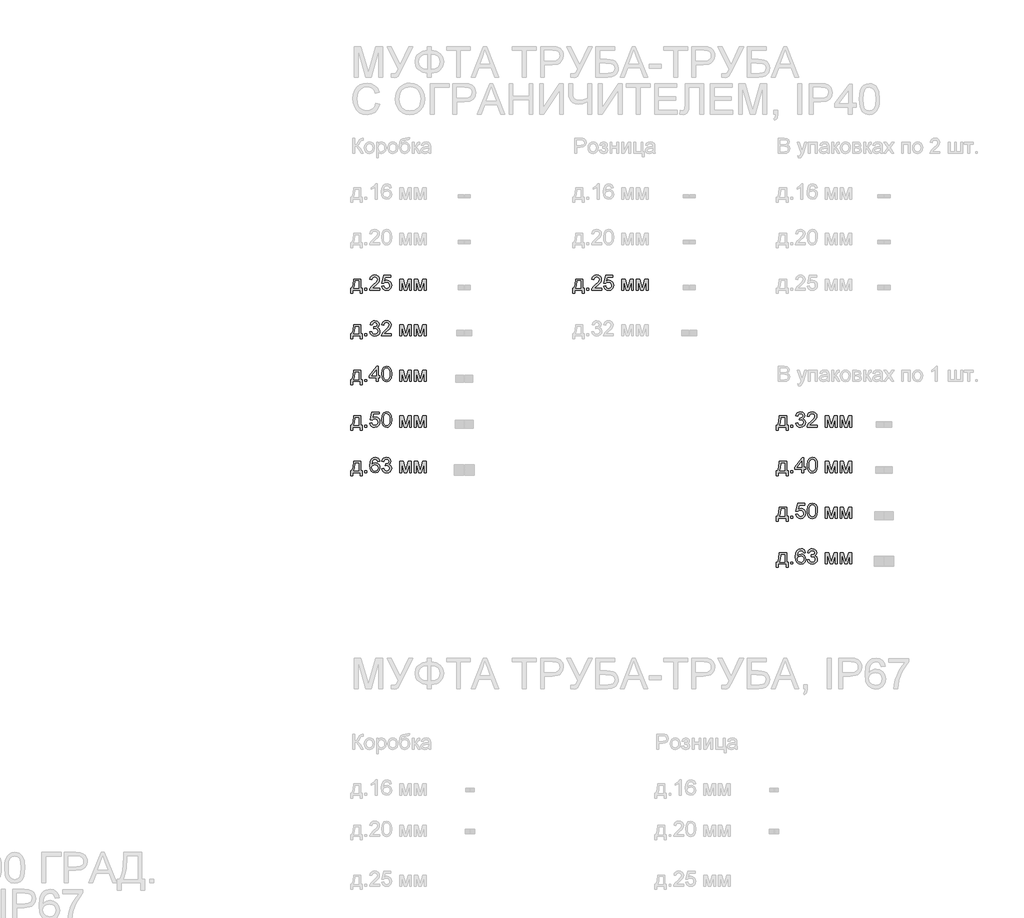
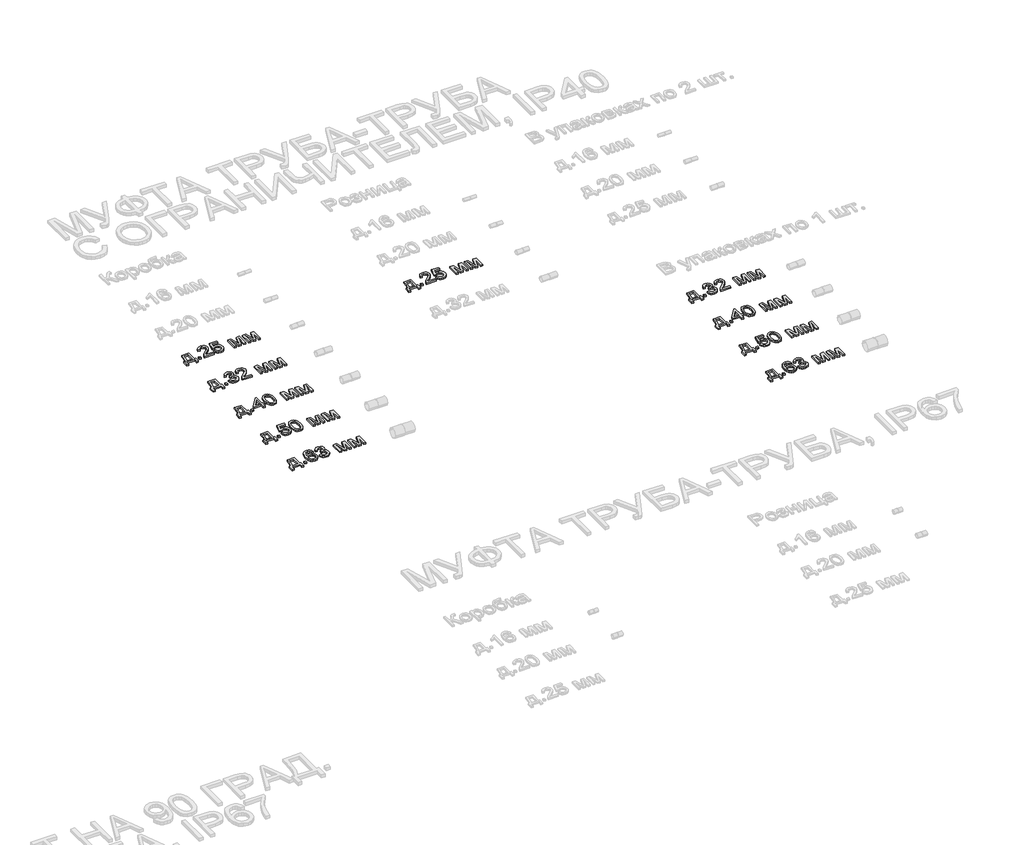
# One storey, part 76 of 98: 10 proxies.
"""IFC4 building model written with IfcOpenShell, lengths in millimetres."""

from ifc_helpers import new_model, si_unit, origin, origin_with_axes, place, context, project, spatial, polyline, outline, extrude, element, save

model = new_model("IFC4")

# Units and contexts
model_context = context("Model", 3, world=origin())
ifc_project = project(units=[si_unit("LENGTHUNIT", "METRE", prefix="MILLI")], contexts=[model_context])

# Site, building, storey
site = spatial("IfcSite", under=ifc_project)
building = spatial("IfcBuilding", under=site)
storey = spatial("IfcBuildingStorey", under=building, Name="Этаж 01", Elevation=0.0)

# Proxies
placement = place(None, origin())
element("IfcBuildingElementProxy", 1, Name="100", ObjectType="100", at=placement, inside=storey, context=model_context, shape_type="SweptSolid", body=[
    extrude(outline(polyline([(8356.3281893, -16165.7395637), (8403.4170847, -16165.7395637), (8403.4170847, -16226.9551277), (8412.8348638, -16226.9551277), (8412.8348638, -16259.9173545), (8400.277825, -16259.9173545), (8400.277825, -16239.5121665), (8348.4800401, -16239.5121665), (8348.4800401, -16259.9173545), (8335.9230013, -16259.9173545), (8335.9230013, -16226.9551277), (8343.7711505, -16226.9551277), (8353.4709725, -16203.0060098), (8356.3281893, -16165.7395637)]), holes=[polyline([(8367.3155982, -16178.2966025), (8364.3725423, -16206.905559), (8357.8978192, -16226.9551277), (8390.8600459, -16226.9551277), (8390.8600459, -16178.2966025), (8367.3155982, -16178.2966025)])]), origin_with_axes(), (0.0, 0.0, 1.0), 10.0),
    extrude(outline(polyline([(8430.1007921, -16239.5121665), (8430.1007921, -16226.9551277), (8442.6578308, -16226.9551277), (8442.6578308, -16239.5121665), (8430.1007921, -16239.5121665)])), origin_with_axes(), (0.0, 0.0, 1.0), 10.0),
    extrude(outline(polyline([(8527.4178425, -16226.9551277), (8527.4178425, -16239.5121665), (8461.493389, -16239.5121665), (8462.8422896, -16230.8546768), (8470.4697097, -16217.5250859), (8486.1905336, -16202.9692216), (8507.8710459, -16182.0489988), (8513.2911739, -16167.8242283), (8508.1776142, -16156.3095219), (8494.8234978, -16151.6128951), (8480.9052956, -16156.1991573), (8475.6200576, -16168.8788234), (8463.0630188, -16167.3091935), (8466.1072424, -16155.1629563), (8472.6892644, -16146.2908689), (8482.4657284, -16140.8646095), (8495.0932779, -16139.0558563), (8507.8127979, -16141.0669445), (8517.5708678, -16147.1002093), (8523.7788765, -16156.1133182), (8525.8482127, -16167.0639389), (8523.6163953, -16178.9710528), (8516.1974417, -16191.2828369), (8498.2080121, -16208.4874515), (8483.7625124, -16220.5662437), (8478.0971297, -16226.9551277), (8527.4178425, -16226.9551277)])), origin_with_axes(), (0.0, 0.0, 1.0), 10.0),
    extrude(outline(polyline([(8539.9748813, -16212.8284591), (8552.5319201, -16211.2588292), (8558.8594904, -16224.1960127), (8571.9806149, -16228.5247575), (8580.981461, -16227.019507), (8587.7259643, -16222.5037555), (8591.9382131, -16215.4986692), (8593.3422961, -16206.5254142), (8588.0815835, -16191.6139307), (8581.475036, -16187.5120464), (8572.1768186, -16186.1447517), (8561.1526215, -16188.3275182), (8554.1015499, -16193.9929009), (8541.5445111, -16192.4232711), (8552.5319201, -16140.6254862), (8601.1904453, -16140.6254862), (8601.1904453, -16153.1825249), (8562.6854631, -16153.1825249), (8557.314386, -16180.847251), (8566.2845753, -16175.4025974), (8575.6839603, -16173.5877129), (8587.4163303, -16175.8379245), (8597.1560061, -16182.5885591), (8603.7135027, -16192.8769922), (8605.8993348, -16205.7405993), (8603.9311662, -16218.2976381), (8598.0266601, -16229.0397923), (8586.7204202, -16238.0712953), (8571.931564, -16241.0817963), (8559.5983201, -16239.1473501), (8549.7728051, -16233.3440117), (8543.0374989, -16224.3462312), (8539.9748813, -16212.8284591)])), origin_with_axes(), (0.0, 0.0, 1.0), 10.0),
    extrude(outline(polyline([(8659.2667496, -16165.7395637), (8680.8736855, -16165.7395637), (8697.5264771, -16224.7968867), (8715.4791185, -16165.7395637), (8736.1786121, -16165.7395637), (8736.1786121, -16239.5121665), (8723.6215733, -16239.5121665), (8723.6215733, -16180.111487), (8705.5708301, -16239.5121665), (8689.0897167, -16239.5121665), (8671.8237884, -16177.2665329), (8671.8237884, -16239.5121665), (8659.2667496, -16239.5121665), (8659.2667496, -16165.7395637)])), origin_with_axes(), (0.0, 0.0, 1.0), 10.0),
    extrude(outline(polyline([(8755.0141702, -16165.7395637), (8776.6211061, -16165.7395637), (8793.2738977, -16224.7968867), (8811.2265391, -16165.7395637), (8831.9260327, -16165.7395637), (8831.9260327, -16239.5121665), (8819.3689939, -16239.5121665), (8819.3689939, -16180.111487), (8801.3182507, -16239.5121665), (8784.8371373, -16239.5121665), (8767.571209, -16177.2665329), (8767.571209, -16239.5121665), (8755.0141702, -16239.5121665), (8755.0141702, -16165.7395637)])), origin_with_axes(), (0.0, 0.0, 1.0), 10.0),
])
element("IfcBuildingElementProxy", 2, Name="100", ObjectType="100", at=placement, inside=storey, context=model_context, shape_type="SweptSolid", body=[
    extrude(outline(polyline([(8356.3281893, -16465.7395637), (8403.4170847, -16465.7395637), (8403.4170847, -16526.9551277), (8412.8348638, -16526.9551277), (8412.8348638, -16559.9173545), (8400.277825, -16559.9173545), (8400.277825, -16539.5121665), (8348.4800401, -16539.5121665), (8348.4800401, -16559.9173545), (8335.9230013, -16559.9173545), (8335.9230013, -16526.9551277), (8343.7711505, -16526.9551277), (8353.4709725, -16503.0060098), (8356.3281893, -16465.7395637)]), holes=[polyline([(8367.3155982, -16478.2966025), (8364.3725423, -16506.905559), (8357.8978192, -16526.9551277), (8390.8600459, -16526.9551277), (8390.8600459, -16478.2966025), (8367.3155982, -16478.2966025)])]), origin_with_axes(), (0.0, 0.0, 1.0), 10.0),
    extrude(outline(polyline([(8430.1007921, -16539.5121665), (8430.1007921, -16526.9551277), (8442.6578308, -16526.9551277), (8442.6578308, -16539.5121665), (8430.1007921, -16539.5121665)])), origin_with_axes(), (0.0, 0.0, 1.0), 10.0),
    extrude(outline(polyline([(8463.0630188, -16512.8284591), (8475.6200576, -16511.2588292), (8482.5485019, -16524.4780556), (8495.5102108, -16528.5247575), (8504.1186495, -16527.1329373), (8510.7650509, -16522.9574767), (8516.4304336, -16509.1741646), (8510.8141018, -16496.1879302), (8496.5402804, -16491.049845), (8487.735638, -16492.4232711), (8489.1335896, -16479.8662323), (8491.1446778, -16480.0133851), (8505.3939738, -16476.4081416), (8510.1396515, -16471.8341421), (8511.7215441, -16465.3226308), (8507.1352819, -16455.5001815), (8495.3140071, -16451.6128951), (8483.3455795, -16455.5369697), (8477.1896875, -16467.3091935), (8464.6326487, -16465.7395637), (8468.3298627, -16454.4639805), (8474.9088191, -16446.0456142), (8483.9096652, -16440.8032958), (8494.8725487, -16439.0558563), (8510.0170242, -16442.5016843), (8520.6120256, -16451.9194634), (8524.2785828, -16464.5868668), (8520.7959666, -16476.1628869), (8510.4952708, -16484.47702), (8524.180481, -16493.0609332), (8528.9874724, -16509.3948938), (8526.5839767, -16521.6331015), (8519.3734896, -16531.860221), (8508.4903139, -16538.7764025), (8495.0687524, -16541.0817963), (8482.9286466, -16539.1136276), (8473.0448836, -16533.2091216), (8466.1716217, -16524.1776186), (8463.0630188, -16512.8284591)])), origin_with_axes(), (0.0, 0.0, 1.0), 10.0),
    extrude(outline(polyline([(8604.329705, -16526.9551277), (8604.329705, -16539.5121665), (8538.4052515, -16539.5121665), (8539.7541521, -16530.8546768), (8547.3815721, -16517.5250859), (8563.1023961, -16502.9692216), (8584.7829083, -16482.0489988), (8590.2030364, -16467.8242283), (8585.0894766, -16456.3095219), (8571.7353602, -16451.6128951), (8557.8171581, -16456.1991573), (8552.5319201, -16468.8788234), (8539.9748813, -16467.3091935), (8543.0191048, -16455.1629563), (8549.6011268, -16446.2908689), (8559.3775909, -16440.8646095), (8572.0051403, -16439.0558563), (8584.7246603, -16441.0669445), (8594.4827303, -16447.1002093), (8600.6907389, -16456.1133182), (8602.7600751, -16467.0639389), (8600.5282577, -16478.9710528), (8593.1093041, -16491.2828369), (8575.1198746, -16508.4874515), (8560.6743749, -16520.5662437), (8555.0089922, -16526.9551277), (8604.329705, -16526.9551277)])), origin_with_axes(), (0.0, 0.0, 1.0), 10.0),
    extrude(outline(polyline([(8659.2667496, -16465.7395637), (8680.8736855, -16465.7395637), (8697.5264771, -16524.7968867), (8715.4791185, -16465.7395637), (8736.1786121, -16465.7395637), (8736.1786121, -16539.5121665), (8723.6215733, -16539.5121665), (8723.6215733, -16480.111487), (8705.5708301, -16539.5121665), (8689.0897167, -16539.5121665), (8671.8237884, -16477.2665329), (8671.8237884, -16539.5121665), (8659.2667496, -16539.5121665), (8659.2667496, -16465.7395637)])), origin_with_axes(), (0.0, 0.0, 1.0), 10.0),
    extrude(outline(polyline([(8755.0141702, -16465.7395637), (8776.6211061, -16465.7395637), (8793.2738977, -16524.7968867), (8811.2265391, -16465.7395637), (8831.9260327, -16465.7395637), (8831.9260327, -16539.5121665), (8819.3689939, -16539.5121665), (8819.3689939, -16480.111487), (8801.3182507, -16539.5121665), (8784.8371373, -16539.5121665), (8767.571209, -16477.2665329), (8767.571209, -16539.5121665), (8755.0141702, -16539.5121665), (8755.0141702, -16465.7395637)])), origin_with_axes(), (0.0, 0.0, 1.0), 10.0),
])
element("IfcBuildingElementProxy", 3, Name="100", ObjectType="100", at=placement, inside=storey, context=model_context, shape_type="SweptSolid", body=[
    extrude(outline(polyline([(8356.3281893, -16765.7395637), (8403.4170847, -16765.7395637), (8403.4170847, -16826.9551277), (8412.8348638, -16826.9551277), (8412.8348638, -16859.9173545), (8400.277825, -16859.9173545), (8400.277825, -16839.5121665), (8348.4800401, -16839.5121665), (8348.4800401, -16859.9173545), (8335.9230013, -16859.9173545), (8335.9230013, -16826.9551277), (8343.7711505, -16826.9551277), (8353.4709725, -16803.0060098), (8356.3281893, -16765.7395637)]), holes=[polyline([(8367.3155982, -16778.2966025), (8364.3725423, -16806.905559), (8357.8978192, -16826.9551277), (8390.8600459, -16826.9551277), (8390.8600459, -16778.2966025), (8367.3155982, -16778.2966025)])]), origin_with_axes(), (0.0, 0.0, 1.0), 10.0),
    extrude(outline(polyline([(8430.1007921, -16839.5121665), (8430.1007921, -16826.9551277), (8442.6578308, -16826.9551277), (8442.6578308, -16839.5121665), (8430.1007921, -16839.5121665)])), origin_with_axes(), (0.0, 0.0, 1.0), 10.0),
    extrude(outline(polyline([(8503.8733948, -16839.5121665), (8503.8733948, -16815.9677188), (8458.3541293, -16815.9677188), (8458.3541293, -16803.41068), (8507.0126545, -16740.6254862), (8516.4304336, -16740.6254862), (8516.4304336, -16803.41068), (8528.9874724, -16803.41068), (8528.9874724, -16815.9677188), (8516.4304336, -16815.9677188), (8516.4304336, -16839.5121665), (8503.8733948, -16839.5121665)]), holes=[polyline([(8503.8733948, -16803.41068), (8503.8733948, -16764.6113922), (8473.8051731, -16803.41068), (8503.8733948, -16803.41068)])]), origin_with_axes(), (0.0, 0.0, 1.0), 10.0),
    extrude(outline(polyline([(8539.9748813, -16790.0933518), (8543.665964, -16761.1900897), (8554.6288474, -16744.5250353), (8572.9371081, -16739.0558563), (8587.6033369, -16742.2932179), (8597.7323545, -16751.6251578), (8603.6184665, -16766.4875904), (8605.8993348, -16790.0933518), (8602.2450404, -16818.8739865), (8591.3189451, -16835.5758291), (8583.0875855, -16839.7053045), (8572.9371081, -16841.0817963), (8559.88956, -16838.6905633), (8549.9812716, -16831.5168644), (8542.4764789, -16814.5268476), (8539.9748813, -16790.0933518)]), holes=[polyline([(8552.5319201, -16790.0688263), (8554.0034481, -16809.8210238), (8558.418032, -16821.2529568), (8564.990857, -16826.7068073), (8572.9371081, -16828.5247575), (8580.8833592, -16826.700676), (8587.4561841, -16821.2284313), (8591.8707681, -16809.7903669), (8593.3422961, -16790.0688263), (8591.919819, -16770.7611529), (8587.6523879, -16759.2403151), (8581.0918256, -16753.5197501), (8572.7899553, -16751.6128951), (8564.9295433, -16753.2928895), (8558.6142357, -16758.3328729), (8554.052499, -16770.5710806), (8552.5319201, -16790.0688263)])]), origin_with_axes(), (0.0, 0.0, 1.0), 10.0),
    extrude(outline(polyline([(8659.2667496, -16765.7395637), (8680.8736855, -16765.7395637), (8697.5264771, -16824.7968867), (8715.4791185, -16765.7395637), (8736.1786121, -16765.7395637), (8736.1786121, -16839.5121665), (8723.6215733, -16839.5121665), (8723.6215733, -16780.111487), (8705.5708301, -16839.5121665), (8689.0897167, -16839.5121665), (8671.8237884, -16777.2665329), (8671.8237884, -16839.5121665), (8659.2667496, -16839.5121665), (8659.2667496, -16765.7395637)])), origin_with_axes(), (0.0, 0.0, 1.0), 10.0),
    extrude(outline(polyline([(8755.0141702, -16765.7395637), (8776.6211061, -16765.7395637), (8793.2738977, -16824.7968867), (8811.2265391, -16765.7395637), (8831.9260327, -16765.7395637), (8831.9260327, -16839.5121665), (8819.3689939, -16839.5121665), (8819.3689939, -16780.111487), (8801.3182507, -16839.5121665), (8784.8371373, -16839.5121665), (8767.571209, -16777.2665329), (8767.571209, -16839.5121665), (8755.0141702, -16839.5121665), (8755.0141702, -16765.7395637)])), origin_with_axes(), (0.0, 0.0, 1.0), 10.0),
])
element("IfcBuildingElementProxy", 4, Name="100", ObjectType="100", at=placement, inside=storey, context=model_context, shape_type="SweptSolid", body=[
    extrude(outline(polyline([(8356.3281893, -17065.7395637), (8403.4170847, -17065.7395637), (8403.4170847, -17126.9551277), (8412.8348638, -17126.9551277), (8412.8348638, -17159.9173545), (8400.277825, -17159.9173545), (8400.277825, -17139.5121665), (8348.4800401, -17139.5121665), (8348.4800401, -17159.9173545), (8335.9230013, -17159.9173545), (8335.9230013, -17126.9551277), (8343.7711505, -17126.9551277), (8353.4709725, -17103.0060098), (8356.3281893, -17065.7395637)]), holes=[polyline([(8367.3155982, -17078.2966025), (8364.3725423, -17106.905559), (8357.8978192, -17126.9551277), (8390.8600459, -17126.9551277), (8390.8600459, -17078.2966025), (8367.3155982, -17078.2966025)])]), origin_with_axes(), (0.0, 0.0, 1.0), 10.0),
    extrude(outline(polyline([(8430.1007921, -17139.5121665), (8430.1007921, -17126.9551277), (8442.6578308, -17126.9551277), (8442.6578308, -17139.5121665), (8430.1007921, -17139.5121665)])), origin_with_axes(), (0.0, 0.0, 1.0), 10.0),
    extrude(outline(polyline([(8463.0630188, -17112.8284591), (8475.6200576, -17111.2588292), (8481.9476279, -17124.1960127), (8495.0687524, -17128.5247575), (8504.0695986, -17127.019507), (8510.8141018, -17122.5037555), (8515.0263507, -17115.4986692), (8516.4304336, -17106.5254142), (8511.1697211, -17091.6139307), (8504.5631736, -17087.5120464), (8495.2649562, -17086.1447517), (8484.240759, -17088.3275182), (8477.1896875, -17093.9929009), (8464.6326487, -17092.4232711), (8475.6200576, -17040.6254862), (8524.2785828, -17040.6254862), (8524.2785828, -17053.1825249), (8485.7736007, -17053.1825249), (8480.4025236, -17080.847251), (8489.3727129, -17075.4025974), (8498.7720978, -17073.5877129), (8510.5044678, -17075.8379245), (8520.2441436, -17082.5885591), (8526.8016402, -17092.8769922), (8528.9874724, -17105.7405993), (8527.0193037, -17118.2976381), (8521.1147977, -17129.0397923), (8509.8085577, -17138.0712953), (8495.0197015, -17141.0817963), (8482.6864576, -17139.1473501), (8472.8609426, -17133.3440117), (8466.1256365, -17124.3462312), (8463.0630188, -17112.8284591)])), origin_with_axes(), (0.0, 0.0, 1.0), 10.0),
    extrude(outline(polyline([(8539.9748813, -17090.0933518), (8543.665964, -17061.1900897), (8554.6288474, -17044.5250353), (8572.9371081, -17039.0558563), (8587.6033369, -17042.2932179), (8597.7323545, -17051.6251578), (8603.6184665, -17066.4875904), (8605.8993348, -17090.0933518), (8602.2450404, -17118.8739865), (8591.3189451, -17135.5758291), (8583.0875855, -17139.7053045), (8572.9371081, -17141.0817963), (8559.88956, -17138.6905633), (8549.9812716, -17131.5168644), (8542.4764789, -17114.5268476), (8539.9748813, -17090.0933518)]), holes=[polyline([(8552.5319201, -17090.0688263), (8554.0034481, -17109.8210238), (8558.418032, -17121.2529568), (8564.990857, -17126.7068073), (8572.9371081, -17128.5247575), (8580.8833592, -17126.700676), (8587.4561841, -17121.2284313), (8591.8707681, -17109.7903669), (8593.3422961, -17090.0688263), (8591.919819, -17070.7611529), (8587.6523879, -17059.2403151), (8581.0918256, -17053.5197501), (8572.7899553, -17051.6128951), (8564.9295433, -17053.2928895), (8558.6142357, -17058.3328729), (8554.052499, -17070.5710806), (8552.5319201, -17090.0688263)])]), origin_with_axes(), (0.0, 0.0, 1.0), 10.0),
    extrude(outline(polyline([(8659.2667496, -17065.7395637), (8680.8736855, -17065.7395637), (8697.5264771, -17124.7968867), (8715.4791185, -17065.7395637), (8736.1786121, -17065.7395637), (8736.1786121, -17139.5121665), (8723.6215733, -17139.5121665), (8723.6215733, -17080.111487), (8705.5708301, -17139.5121665), (8689.0897167, -17139.5121665), (8671.8237884, -17077.2665329), (8671.8237884, -17139.5121665), (8659.2667496, -17139.5121665), (8659.2667496, -17065.7395637)])), origin_with_axes(), (0.0, 0.0, 1.0), 10.0),
    extrude(outline(polyline([(8755.0141702, -17065.7395637), (8776.6211061, -17065.7395637), (8793.2738977, -17124.7968867), (8811.2265391, -17065.7395637), (8831.9260327, -17065.7395637), (8831.9260327, -17139.5121665), (8819.3689939, -17139.5121665), (8819.3689939, -17080.111487), (8801.3182507, -17139.5121665), (8784.8371373, -17139.5121665), (8767.571209, -17077.2665329), (8767.571209, -17139.5121665), (8755.0141702, -17139.5121665), (8755.0141702, -17065.7395637)])), origin_with_axes(), (0.0, 0.0, 1.0), 10.0),
])
element("IfcBuildingElementProxy", 5, Name="100", ObjectType="100", at=placement, inside=storey, context=model_context, shape_type="SweptSolid", body=[
    extrude(outline(polyline([(8356.3281893, -17365.7395637), (8403.4170847, -17365.7395637), (8403.4170847, -17426.9551277), (8412.8348638, -17426.9551277), (8412.8348638, -17459.9173545), (8400.277825, -17459.9173545), (8400.277825, -17439.5121665), (8348.4800401, -17439.5121665), (8348.4800401, -17459.9173545), (8335.9230013, -17459.9173545), (8335.9230013, -17426.9551277), (8343.7711505, -17426.9551277), (8353.4709725, -17403.0060098), (8356.3281893, -17365.7395637)]), holes=[polyline([(8367.3155982, -17378.2966025), (8364.3725423, -17406.905559), (8357.8978192, -17426.9551277), (8390.8600459, -17426.9551277), (8390.8600459, -17378.2966025), (8367.3155982, -17378.2966025)])]), origin_with_axes(), (0.0, 0.0, 1.0), 10.0),
    extrude(outline(polyline([(8430.1007921, -17439.5121665), (8430.1007921, -17426.9551277), (8442.6578308, -17426.9551277), (8442.6578308, -17439.5121665), (8430.1007921, -17439.5121665)])), origin_with_axes(), (0.0, 0.0, 1.0), 10.0),
    extrude(outline(polyline([(8527.4178425, -17365.7395637), (8514.8608038, -17367.3091935), (8510.1028633, -17356.8368194), (8497.5212991, -17351.6128951), (8486.1905336, -17354.6540529), (8477.6188831, -17366.0706575), (8474.0504278, -17388.4501455), (8485.1236758, -17378.4314925), (8498.8456742, -17375.1573428), (8510.4462198, -17377.3952916), (8520.18283, -17384.109138), (8526.7863118, -17394.3669143), (8528.9874724, -17407.2366527), (8524.8426686, -17424.5638947), (8513.4383267, -17436.8266279), (8496.9817388, -17441.0817963), (8482.7355085, -17438.2613677), (8471.3894147, -17429.8000818), (8463.9673954, -17414.8640728), (8461.493389, -17392.6194748), (8464.2402412, -17367.6096305), (8472.4807979, -17350.5092491), (8483.7318556, -17341.9192045), (8498.306114, -17339.0558563), (8509.3241797, -17340.8278213), (8518.1472163, -17346.1437161), (8524.3276338, -17354.5866079), (8527.4178425, -17365.7395637)]), holes=[polyline([(8474.0504278, -17407.040449), (8476.9566955, -17417.9174933), (8484.6822174, -17425.8146935), (8496.0007201, -17428.5247575), (8504.2872621, -17427.1206746), (8510.8018391, -17422.9084257), (8515.023285, -17416.2865498), (8516.4304336, -17407.6535857), (8515.0416791, -17399.3670437), (8510.8754155, -17393.0486705), (8504.2504739, -17389.0479538), (8495.4856854, -17387.7143815), (8480.292159, -17393.0486705), (8475.6108606, -17399.2137596), (8474.0504278, -17407.040449)])]), origin_with_axes(), (0.0, 0.0, 1.0), 10.0),
    extrude(outline(polyline([(8539.9748813, -17412.8284591), (8552.5319201, -17411.2588292), (8559.4603643, -17424.4780556), (8572.4220733, -17428.5247575), (8581.030512, -17427.1329373), (8587.6769133, -17422.9574767), (8593.3422961, -17409.1741646), (8587.7259643, -17396.1879302), (8573.4521429, -17391.049845), (8564.6475004, -17392.4232711), (8566.045452, -17379.8662323), (8568.0565403, -17380.0133851), (8582.3058362, -17376.4081416), (8587.051514, -17371.8341421), (8588.6334065, -17365.3226308), (8584.0471443, -17355.5001815), (8572.2258695, -17351.6128951), (8560.257442, -17355.5369697), (8554.1015499, -17367.3091935), (8541.5445111, -17365.7395637), (8545.2417252, -17354.4639805), (8551.8206815, -17346.0456142), (8560.8215277, -17340.8032958), (8571.7844112, -17339.0558563), (8586.9288866, -17342.5016843), (8597.5238881, -17351.9194634), (8601.1904453, -17364.5868668), (8597.7078291, -17376.1628869), (8587.4071332, -17384.47702), (8601.0923434, -17393.0609332), (8605.8993348, -17409.3948938), (8603.4958391, -17421.6331015), (8596.285352, -17431.860221), (8585.4021763, -17438.7764025), (8571.9806149, -17441.0817963), (8559.840509, -17439.1136276), (8549.9567461, -17433.2091216), (8543.0834842, -17424.1776186), (8539.9748813, -17412.8284591)])), origin_with_axes(), (0.0, 0.0, 1.0), 10.0),
    extrude(outline(polyline([(8659.2667496, -17365.7395637), (8680.8736855, -17365.7395637), (8697.5264771, -17424.7968867), (8715.4791185, -17365.7395637), (8736.1786121, -17365.7395637), (8736.1786121, -17439.5121665), (8723.6215733, -17439.5121665), (8723.6215733, -17380.111487), (8705.5708301, -17439.5121665), (8689.0897167, -17439.5121665), (8671.8237884, -17377.2665329), (8671.8237884, -17439.5121665), (8659.2667496, -17439.5121665), (8659.2667496, -17365.7395637)])), origin_with_axes(), (0.0, 0.0, 1.0), 10.0),
    extrude(outline(polyline([(8755.0141702, -17365.7395637), (8776.6211061, -17365.7395637), (8793.2738977, -17424.7968867), (8811.2265391, -17365.7395637), (8831.9260327, -17365.7395637), (8831.9260327, -17439.5121665), (8819.3689939, -17439.5121665), (8819.3689939, -17380.111487), (8801.3182507, -17439.5121665), (8784.8371373, -17439.5121665), (8767.571209, -17377.2665329), (8767.571209, -17439.5121665), (8755.0141702, -17439.5121665), (8755.0141702, -17365.7395637)])), origin_with_axes(), (0.0, 0.0, 1.0), 10.0),
])
element("IfcBuildingElementProxy", 6, Name="100", ObjectType="100", at=placement, inside=storey, context=model_context, shape_type="SweptSolid", body=[
    extrude(outline(polyline([(9816.3281893, -16165.7395637), (9863.4170847, -16165.7395637), (9863.4170847, -16226.9551277), (9872.8348638, -16226.9551277), (9872.8348638, -16259.9173545), (9860.277825, -16259.9173545), (9860.277825, -16239.5121665), (9808.4800401, -16239.5121665), (9808.4800401, -16259.9173545), (9795.9230013, -16259.9173545), (9795.9230013, -16226.9551277), (9803.7711505, -16226.9551277), (9813.4709725, -16203.0060098), (9816.3281893, -16165.7395637)]), holes=[polyline([(9827.3155982, -16178.2966025), (9824.3725423, -16206.905559), (9817.8978192, -16226.9551277), (9850.8600459, -16226.9551277), (9850.8600459, -16178.2966025), (9827.3155982, -16178.2966025)])]), origin_with_axes(), (0.0, 0.0, 1.0), 10.0),
    extrude(outline(polyline([(9890.1007921, -16239.5121665), (9890.1007921, -16226.9551277), (9902.6578308, -16226.9551277), (9902.6578308, -16239.5121665), (9890.1007921, -16239.5121665)])), origin_with_axes(), (0.0, 0.0, 1.0), 10.0),
    extrude(outline(polyline([(9987.4178425, -16226.9551277), (9987.4178425, -16239.5121665), (9921.493389, -16239.5121665), (9922.8422896, -16230.8546768), (9930.4697097, -16217.5250859), (9946.1905336, -16202.9692216), (9967.8710459, -16182.0489988), (9973.2911739, -16167.8242283), (9968.1776142, -16156.3095219), (9954.8234978, -16151.6128951), (9940.9052956, -16156.1991573), (9935.6200576, -16168.8788234), (9923.0630188, -16167.3091935), (9926.1072424, -16155.1629563), (9932.6892644, -16146.2908689), (9942.4657284, -16140.8646095), (9955.0932779, -16139.0558563), (9967.8127979, -16141.0669445), (9977.5708678, -16147.1002093), (9983.7788765, -16156.1133182), (9985.8482127, -16167.0639389), (9983.6163953, -16178.9710528), (9976.1974417, -16191.2828369), (9958.2080121, -16208.4874515), (9943.7625124, -16220.5662437), (9938.0971297, -16226.9551277), (9987.4178425, -16226.9551277)])), origin_with_axes(), (0.0, 0.0, 1.0), 10.0),
    extrude(outline(polyline([(9999.9748813, -16212.8284591), (10012.5319201, -16211.2588292), (10018.8594904, -16224.1960127), (10031.9806149, -16228.5247575), (10040.981461, -16227.019507), (10047.7259643, -16222.5037555), (10051.9382131, -16215.4986692), (10053.3422961, -16206.5254142), (10048.0815835, -16191.6139307), (10041.475036, -16187.5120464), (10032.1768186, -16186.1447517), (10021.1526215, -16188.3275182), (10014.1015499, -16193.9929009), (10001.5445111, -16192.4232711), (10012.5319201, -16140.6254862), (10061.1904453, -16140.6254862), (10061.1904453, -16153.1825249), (10022.6854631, -16153.1825249), (10017.314386, -16180.847251), (10026.2845753, -16175.4025974), (10035.6839603, -16173.5877129), (10047.4163303, -16175.8379245), (10057.1560061, -16182.5885591), (10063.7135027, -16192.8769922), (10065.8993348, -16205.7405993), (10063.9311662, -16218.2976381), (10058.0266601, -16229.0397923), (10046.7204202, -16238.0712953), (10031.931564, -16241.0817963), (10019.5983201, -16239.1473501), (10009.7728051, -16233.3440117), (10003.0374989, -16224.3462312), (9999.9748813, -16212.8284591)])), origin_with_axes(), (0.0, 0.0, 1.0), 10.0),
    extrude(outline(polyline([(10119.2667496, -16165.7395637), (10140.8736855, -16165.7395637), (10157.5264771, -16224.7968867), (10175.4791185, -16165.7395637), (10196.1786121, -16165.7395637), (10196.1786121, -16239.5121665), (10183.6215733, -16239.5121665), (10183.6215733, -16180.111487), (10165.5708301, -16239.5121665), (10149.0897167, -16239.5121665), (10131.8237884, -16177.2665329), (10131.8237884, -16239.5121665), (10119.2667496, -16239.5121665), (10119.2667496, -16165.7395637)])), origin_with_axes(), (0.0, 0.0, 1.0), 10.0),
    extrude(outline(polyline([(10215.0141702, -16165.7395637), (10236.6211061, -16165.7395637), (10253.2738977, -16224.7968867), (10271.2265391, -16165.7395637), (10291.9260327, -16165.7395637), (10291.9260327, -16239.5121665), (10279.3689939, -16239.5121665), (10279.3689939, -16180.111487), (10261.3182507, -16239.5121665), (10244.8371373, -16239.5121665), (10227.571209, -16177.2665329), (10227.571209, -16239.5121665), (10215.0141702, -16239.5121665), (10215.0141702, -16165.7395637)])), origin_with_axes(), (0.0, 0.0, 1.0), 10.0),
])
element("IfcBuildingElementProxy", 7, Name="100", ObjectType="100", at=placement, inside=storey, context=model_context, shape_type="SweptSolid", body=[
    extrude(outline(polyline([(11156.3281893, -17065.7395637), (11203.4170847, -17065.7395637), (11203.4170847, -17126.9551277), (11212.8348638, -17126.9551277), (11212.8348638, -17159.9173545), (11200.277825, -17159.9173545), (11200.277825, -17139.5121665), (11148.4800401, -17139.5121665), (11148.4800401, -17159.9173545), (11135.9230013, -17159.9173545), (11135.9230013, -17126.9551277), (11143.7711505, -17126.9551277), (11153.4709725, -17103.0060098), (11156.3281893, -17065.7395637)]), holes=[polyline([(11167.3155982, -17078.2966025), (11164.3725423, -17106.905559), (11157.8978192, -17126.9551277), (11190.8600459, -17126.9551277), (11190.8600459, -17078.2966025), (11167.3155982, -17078.2966025)])]), origin_with_axes(), (0.0, 0.0, 1.0), 10.0),
    extrude(outline(polyline([(11230.1007921, -17139.5121665), (11230.1007921, -17126.9551277), (11242.6578308, -17126.9551277), (11242.6578308, -17139.5121665), (11230.1007921, -17139.5121665)])), origin_with_axes(), (0.0, 0.0, 1.0), 10.0),
    extrude(outline(polyline([(11263.0630188, -17112.8284591), (11275.6200576, -17111.2588292), (11282.5485019, -17124.4780556), (11295.5102108, -17128.5247575), (11304.1186495, -17127.1329373), (11310.7650509, -17122.9574767), (11316.4304336, -17109.1741646), (11310.8141018, -17096.1879302), (11296.5402804, -17091.049845), (11287.735638, -17092.4232711), (11289.1335896, -17079.8662323), (11291.1446778, -17080.0133851), (11305.3939738, -17076.4081416), (11310.1396515, -17071.8341421), (11311.7215441, -17065.3226308), (11307.1352819, -17055.5001815), (11295.3140071, -17051.6128951), (11283.3455795, -17055.5369697), (11277.1896875, -17067.3091935), (11264.6326487, -17065.7395637), (11268.3298627, -17054.4639805), (11274.9088191, -17046.0456142), (11283.9096652, -17040.8032958), (11294.8725487, -17039.0558563), (11310.0170242, -17042.5016843), (11320.6120256, -17051.9194634), (11324.2785828, -17064.5868668), (11320.7959666, -17076.1628869), (11310.4952708, -17084.47702), (11324.180481, -17093.0609332), (11328.9874724, -17109.3948938), (11326.5839767, -17121.6331015), (11319.3734896, -17131.860221), (11308.4903139, -17138.7764025), (11295.0687524, -17141.0817963), (11282.9286466, -17139.1136276), (11273.0448836, -17133.2091216), (11266.1716217, -17124.1776186), (11263.0630188, -17112.8284591)])), origin_with_axes(), (0.0, 0.0, 1.0), 10.0),
    extrude(outline(polyline([(11404.329705, -17126.9551277), (11404.329705, -17139.5121665), (11338.4052515, -17139.5121665), (11339.7541521, -17130.8546768), (11347.3815721, -17117.5250859), (11363.1023961, -17102.9692216), (11384.7829083, -17082.0489988), (11390.2030364, -17067.8242283), (11385.0894766, -17056.3095219), (11371.7353602, -17051.6128951), (11357.8171581, -17056.1991573), (11352.5319201, -17068.8788234), (11339.9748813, -17067.3091935), (11343.0191048, -17055.1629563), (11349.6011268, -17046.2908689), (11359.3775909, -17040.8646095), (11372.0051403, -17039.0558563), (11384.7246603, -17041.0669445), (11394.4827303, -17047.1002093), (11400.6907389, -17056.1133182), (11402.7600751, -17067.0639389), (11400.5282577, -17078.9710528), (11393.1093041, -17091.2828369), (11375.1198746, -17108.4874515), (11360.6743749, -17120.5662437), (11355.0089922, -17126.9551277), (11404.329705, -17126.9551277)])), origin_with_axes(), (0.0, 0.0, 1.0), 10.0),
    extrude(outline(polyline([(11459.2667496, -17065.7395637), (11480.8736855, -17065.7395637), (11497.5264771, -17124.7968867), (11515.4791185, -17065.7395637), (11536.1786121, -17065.7395637), (11536.1786121, -17139.5121665), (11523.6215733, -17139.5121665), (11523.6215733, -17080.111487), (11505.5708301, -17139.5121665), (11489.0897167, -17139.5121665), (11471.8237884, -17077.2665329), (11471.8237884, -17139.5121665), (11459.2667496, -17139.5121665), (11459.2667496, -17065.7395637)])), origin_with_axes(), (0.0, 0.0, 1.0), 10.0),
    extrude(outline(polyline([(11555.0141702, -17065.7395637), (11576.6211061, -17065.7395637), (11593.2738977, -17124.7968867), (11611.2265391, -17065.7395637), (11631.9260327, -17065.7395637), (11631.9260327, -17139.5121665), (11619.3689939, -17139.5121665), (11619.3689939, -17080.111487), (11601.3182507, -17139.5121665), (11584.8371373, -17139.5121665), (11567.571209, -17077.2665329), (11567.571209, -17139.5121665), (11555.0141702, -17139.5121665), (11555.0141702, -17065.7395637)])), origin_with_axes(), (0.0, 0.0, 1.0), 10.0),
])
element("IfcBuildingElementProxy", 8, Name="100", ObjectType="100", at=placement, inside=storey, context=model_context, shape_type="SweptSolid", body=[
    extrude(outline(polyline([(11156.3281893, -17365.7395637), (11203.4170847, -17365.7395637), (11203.4170847, -17426.9551277), (11212.8348638, -17426.9551277), (11212.8348638, -17459.9173545), (11200.277825, -17459.9173545), (11200.277825, -17439.5121665), (11148.4800401, -17439.5121665), (11148.4800401, -17459.9173545), (11135.9230013, -17459.9173545), (11135.9230013, -17426.9551277), (11143.7711505, -17426.9551277), (11153.4709725, -17403.0060098), (11156.3281893, -17365.7395637)]), holes=[polyline([(11167.3155982, -17378.2966025), (11164.3725423, -17406.905559), (11157.8978192, -17426.9551277), (11190.8600459, -17426.9551277), (11190.8600459, -17378.2966025), (11167.3155982, -17378.2966025)])]), origin_with_axes(), (0.0, 0.0, 1.0), 10.0),
    extrude(outline(polyline([(11230.1007921, -17439.5121665), (11230.1007921, -17426.9551277), (11242.6578308, -17426.9551277), (11242.6578308, -17439.5121665), (11230.1007921, -17439.5121665)])), origin_with_axes(), (0.0, 0.0, 1.0), 10.0),
    extrude(outline(polyline([(11303.8733948, -17439.5121665), (11303.8733948, -17415.9677188), (11258.3541293, -17415.9677188), (11258.3541293, -17403.41068), (11307.0126545, -17340.6254862), (11316.4304336, -17340.6254862), (11316.4304336, -17403.41068), (11328.9874724, -17403.41068), (11328.9874724, -17415.9677188), (11316.4304336, -17415.9677188), (11316.4304336, -17439.5121665), (11303.8733948, -17439.5121665)]), holes=[polyline([(11303.8733948, -17403.41068), (11303.8733948, -17364.6113922), (11273.8051731, -17403.41068), (11303.8733948, -17403.41068)])]), origin_with_axes(), (0.0, 0.0, 1.0), 10.0),
    extrude(outline(polyline([(11339.9748813, -17390.0933518), (11343.665964, -17361.1900897), (11354.6288474, -17344.5250353), (11372.9371081, -17339.0558563), (11387.6033369, -17342.2932179), (11397.7323545, -17351.6251578), (11403.6184665, -17366.4875904), (11405.8993348, -17390.0933518), (11402.2450404, -17418.8739865), (11391.3189451, -17435.5758291), (11383.0875855, -17439.7053045), (11372.9371081, -17441.0817963), (11359.88956, -17438.6905633), (11349.9812716, -17431.5168644), (11342.4764789, -17414.5268476), (11339.9748813, -17390.0933518)]), holes=[polyline([(11352.5319201, -17390.0688263), (11354.0034481, -17409.8210238), (11358.418032, -17421.2529568), (11364.990857, -17426.7068073), (11372.9371081, -17428.5247575), (11380.8833592, -17426.700676), (11387.4561841, -17421.2284313), (11391.8707681, -17409.7903669), (11393.3422961, -17390.0688263), (11391.919819, -17370.7611529), (11387.6523879, -17359.2403151), (11381.0918256, -17353.5197501), (11372.7899553, -17351.6128951), (11364.9295433, -17353.2928895), (11358.6142357, -17358.3328729), (11354.052499, -17370.5710806), (11352.5319201, -17390.0688263)])]), origin_with_axes(), (0.0, 0.0, 1.0), 10.0),
    extrude(outline(polyline([(11459.2667496, -17365.7395637), (11480.8736855, -17365.7395637), (11497.5264771, -17424.7968867), (11515.4791185, -17365.7395637), (11536.1786121, -17365.7395637), (11536.1786121, -17439.5121665), (11523.6215733, -17439.5121665), (11523.6215733, -17380.111487), (11505.5708301, -17439.5121665), (11489.0897167, -17439.5121665), (11471.8237884, -17377.2665329), (11471.8237884, -17439.5121665), (11459.2667496, -17439.5121665), (11459.2667496, -17365.7395637)])), origin_with_axes(), (0.0, 0.0, 1.0), 10.0),
    extrude(outline(polyline([(11555.0141702, -17365.7395637), (11576.6211061, -17365.7395637), (11593.2738977, -17424.7968867), (11611.2265391, -17365.7395637), (11631.9260327, -17365.7395637), (11631.9260327, -17439.5121665), (11619.3689939, -17439.5121665), (11619.3689939, -17380.111487), (11601.3182507, -17439.5121665), (11584.8371373, -17439.5121665), (11567.571209, -17377.2665329), (11567.571209, -17439.5121665), (11555.0141702, -17439.5121665), (11555.0141702, -17365.7395637)])), origin_with_axes(), (0.0, 0.0, 1.0), 10.0),
])
element("IfcBuildingElementProxy", 9, Name="100", ObjectType="100", at=placement, inside=storey, context=model_context, shape_type="SweptSolid", body=[
    extrude(outline(polyline([(11156.3281893, -17665.7395637), (11203.4170847, -17665.7395637), (11203.4170847, -17726.9551277), (11212.8348638, -17726.9551277), (11212.8348638, -17759.9173545), (11200.277825, -17759.9173545), (11200.277825, -17739.5121665), (11148.4800401, -17739.5121665), (11148.4800401, -17759.9173545), (11135.9230013, -17759.9173545), (11135.9230013, -17726.9551277), (11143.7711505, -17726.9551277), (11153.4709725, -17703.0060098), (11156.3281893, -17665.7395637)]), holes=[polyline([(11167.3155982, -17678.2966025), (11164.3725423, -17706.905559), (11157.8978192, -17726.9551277), (11190.8600459, -17726.9551277), (11190.8600459, -17678.2966025), (11167.3155982, -17678.2966025)])]), origin_with_axes(), (0.0, 0.0, 1.0), 10.0),
    extrude(outline(polyline([(11230.1007921, -17739.5121665), (11230.1007921, -17726.9551277), (11242.6578308, -17726.9551277), (11242.6578308, -17739.5121665), (11230.1007921, -17739.5121665)])), origin_with_axes(), (0.0, 0.0, 1.0), 10.0),
    extrude(outline(polyline([(11263.0630188, -17712.8284591), (11275.6200576, -17711.2588292), (11281.9476279, -17724.1960127), (11295.0687524, -17728.5247575), (11304.0695986, -17727.019507), (11310.8141018, -17722.5037555), (11315.0263507, -17715.4986692), (11316.4304336, -17706.5254142), (11311.1697211, -17691.6139307), (11304.5631736, -17687.5120464), (11295.2649562, -17686.1447517), (11284.240759, -17688.3275182), (11277.1896875, -17693.9929009), (11264.6326487, -17692.4232711), (11275.6200576, -17640.6254862), (11324.2785828, -17640.6254862), (11324.2785828, -17653.1825249), (11285.7736007, -17653.1825249), (11280.4025236, -17680.847251), (11289.3727129, -17675.4025974), (11298.7720978, -17673.5877129), (11310.5044678, -17675.8379245), (11320.2441436, -17682.5885591), (11326.8016402, -17692.8769922), (11328.9874724, -17705.7405993), (11327.0193037, -17718.2976381), (11321.1147977, -17729.0397923), (11309.8085577, -17738.0712953), (11295.0197015, -17741.0817963), (11282.6864576, -17739.1473501), (11272.8609426, -17733.3440117), (11266.1256365, -17724.3462312), (11263.0630188, -17712.8284591)])), origin_with_axes(), (0.0, 0.0, 1.0), 10.0),
    extrude(outline(polyline([(11339.9748813, -17690.0933518), (11343.665964, -17661.1900897), (11354.6288474, -17644.5250353), (11372.9371081, -17639.0558563), (11387.6033369, -17642.2932179), (11397.7323545, -17651.6251578), (11403.6184665, -17666.4875904), (11405.8993348, -17690.0933518), (11402.2450404, -17718.8739865), (11391.3189451, -17735.5758291), (11383.0875855, -17739.7053045), (11372.9371081, -17741.0817963), (11359.88956, -17738.6905633), (11349.9812716, -17731.5168644), (11342.4764789, -17714.5268476), (11339.9748813, -17690.0933518)]), holes=[polyline([(11352.5319201, -17690.0688263), (11354.0034481, -17709.8210238), (11358.418032, -17721.2529568), (11364.990857, -17726.7068073), (11372.9371081, -17728.5247575), (11380.8833592, -17726.700676), (11387.4561841, -17721.2284313), (11391.8707681, -17709.7903669), (11393.3422961, -17690.0688263), (11391.919819, -17670.7611529), (11387.6523879, -17659.2403151), (11381.0918256, -17653.5197501), (11372.7899553, -17651.6128951), (11364.9295433, -17653.2928895), (11358.6142357, -17658.3328729), (11354.052499, -17670.5710806), (11352.5319201, -17690.0688263)])]), origin_with_axes(), (0.0, 0.0, 1.0), 10.0),
    extrude(outline(polyline([(11459.2667496, -17665.7395637), (11480.8736855, -17665.7395637), (11497.5264771, -17724.7968867), (11515.4791185, -17665.7395637), (11536.1786121, -17665.7395637), (11536.1786121, -17739.5121665), (11523.6215733, -17739.5121665), (11523.6215733, -17680.111487), (11505.5708301, -17739.5121665), (11489.0897167, -17739.5121665), (11471.8237884, -17677.2665329), (11471.8237884, -17739.5121665), (11459.2667496, -17739.5121665), (11459.2667496, -17665.7395637)])), origin_with_axes(), (0.0, 0.0, 1.0), 10.0),
    extrude(outline(polyline([(11555.0141702, -17665.7395637), (11576.6211061, -17665.7395637), (11593.2738977, -17724.7968867), (11611.2265391, -17665.7395637), (11631.9260327, -17665.7395637), (11631.9260327, -17739.5121665), (11619.3689939, -17739.5121665), (11619.3689939, -17680.111487), (11601.3182507, -17739.5121665), (11584.8371373, -17739.5121665), (11567.571209, -17677.2665329), (11567.571209, -17739.5121665), (11555.0141702, -17739.5121665), (11555.0141702, -17665.7395637)])), origin_with_axes(), (0.0, 0.0, 1.0), 10.0),
])
element("IfcBuildingElementProxy", 10, Name="100", ObjectType="100", at=placement, inside=storey, context=model_context, shape_type="SweptSolid", body=[
    extrude(outline(polyline([(11156.3281893, -17965.7395637), (11203.4170847, -17965.7395637), (11203.4170847, -18026.9551277), (11212.8348638, -18026.9551277), (11212.8348638, -18059.9173545), (11200.277825, -18059.9173545), (11200.277825, -18039.5121665), (11148.4800401, -18039.5121665), (11148.4800401, -18059.9173545), (11135.9230013, -18059.9173545), (11135.9230013, -18026.9551277), (11143.7711505, -18026.9551277), (11153.4709725, -18003.0060098), (11156.3281893, -17965.7395637)]), holes=[polyline([(11167.3155982, -17978.2966025), (11164.3725423, -18006.905559), (11157.8978192, -18026.9551277), (11190.8600459, -18026.9551277), (11190.8600459, -17978.2966025), (11167.3155982, -17978.2966025)])]), origin_with_axes(), (0.0, 0.0, 1.0), 10.0),
    extrude(outline(polyline([(11230.1007921, -18039.5121665), (11230.1007921, -18026.9551277), (11242.6578308, -18026.9551277), (11242.6578308, -18039.5121665), (11230.1007921, -18039.5121665)])), origin_with_axes(), (0.0, 0.0, 1.0), 10.0),
    extrude(outline(polyline([(11327.4178425, -17965.7395637), (11314.8608038, -17967.3091935), (11310.1028633, -17956.8368194), (11297.5212991, -17951.6128951), (11286.1905336, -17954.6540529), (11277.6188831, -17966.0706575), (11274.0504278, -17988.4501455), (11285.1236758, -17978.4314925), (11298.8456742, -17975.1573428), (11310.4462198, -17977.3952916), (11320.18283, -17984.109138), (11326.7863118, -17994.3669143), (11328.9874724, -18007.2366527), (11324.8426686, -18024.5638947), (11313.4383267, -18036.8266279), (11296.9817388, -18041.0817963), (11282.7355085, -18038.2613677), (11271.3894147, -18029.8000818), (11263.9673954, -18014.8640728), (11261.493389, -17992.6194748), (11264.2402412, -17967.6096305), (11272.4807979, -17950.5092491), (11283.7318556, -17941.9192045), (11298.306114, -17939.0558563), (11309.3241797, -17940.8278213), (11318.1472163, -17946.1437161), (11324.3276338, -17954.5866079), (11327.4178425, -17965.7395637)]), holes=[polyline([(11274.0504278, -18007.040449), (11276.9566955, -18017.9174933), (11284.6822174, -18025.8146935), (11296.0007201, -18028.5247575), (11304.2872621, -18027.1206746), (11310.8018391, -18022.9084257), (11315.023285, -18016.2865498), (11316.4304336, -18007.6535857), (11315.0416791, -17999.3670437), (11310.8754155, -17993.0486705), (11304.2504739, -17989.0479538), (11295.4856854, -17987.7143815), (11280.292159, -17993.0486705), (11275.6108606, -17999.2137596), (11274.0504278, -18007.040449)])]), origin_with_axes(), (0.0, 0.0, 1.0), 10.0),
    extrude(outline(polyline([(11339.9748813, -18012.8284591), (11352.5319201, -18011.2588292), (11359.4603643, -18024.4780556), (11372.4220733, -18028.5247575), (11381.030512, -18027.1329373), (11387.6769133, -18022.9574767), (11393.3422961, -18009.1741646), (11387.7259643, -17996.1879302), (11373.4521429, -17991.049845), (11364.6475004, -17992.4232711), (11366.045452, -17979.8662323), (11368.0565403, -17980.0133851), (11382.3058362, -17976.4081416), (11387.051514, -17971.8341421), (11388.6334065, -17965.3226308), (11384.0471443, -17955.5001815), (11372.2258695, -17951.6128951), (11360.257442, -17955.5369697), (11354.1015499, -17967.3091935), (11341.5445111, -17965.7395637), (11345.2417252, -17954.4639805), (11351.8206815, -17946.0456142), (11360.8215277, -17940.8032958), (11371.7844112, -17939.0558563), (11386.9288866, -17942.5016843), (11397.5238881, -17951.9194634), (11401.1904453, -17964.5868668), (11397.7078291, -17976.1628869), (11387.4071332, -17984.47702), (11401.0923434, -17993.0609332), (11405.8993348, -18009.3948938), (11403.4958391, -18021.6331015), (11396.285352, -18031.860221), (11385.4021763, -18038.7764025), (11371.9806149, -18041.0817963), (11359.840509, -18039.1136276), (11349.9567461, -18033.2091216), (11343.0834842, -18024.1776186), (11339.9748813, -18012.8284591)])), origin_with_axes(), (0.0, 0.0, 1.0), 10.0),
    extrude(outline(polyline([(11459.2667496, -17965.7395637), (11480.8736855, -17965.7395637), (11497.5264771, -18024.7968867), (11515.4791185, -17965.7395637), (11536.1786121, -17965.7395637), (11536.1786121, -18039.5121665), (11523.6215733, -18039.5121665), (11523.6215733, -17980.111487), (11505.5708301, -18039.5121665), (11489.0897167, -18039.5121665), (11471.8237884, -17977.2665329), (11471.8237884, -18039.5121665), (11459.2667496, -18039.5121665), (11459.2667496, -17965.7395637)])), origin_with_axes(), (0.0, 0.0, 1.0), 10.0),
    extrude(outline(polyline([(11555.0141702, -17965.7395637), (11576.6211061, -17965.7395637), (11593.2738977, -18024.7968867), (11611.2265391, -17965.7395637), (11631.9260327, -17965.7395637), (11631.9260327, -18039.5121665), (11619.3689939, -18039.5121665), (11619.3689939, -17980.111487), (11601.3182507, -18039.5121665), (11584.8371373, -18039.5121665), (11567.571209, -17977.2665329), (11567.571209, -18039.5121665), (11555.0141702, -18039.5121665), (11555.0141702, -17965.7395637)])), origin_with_axes(), (0.0, 0.0, 1.0), 10.0),
])

save(model, "model.ifc")
